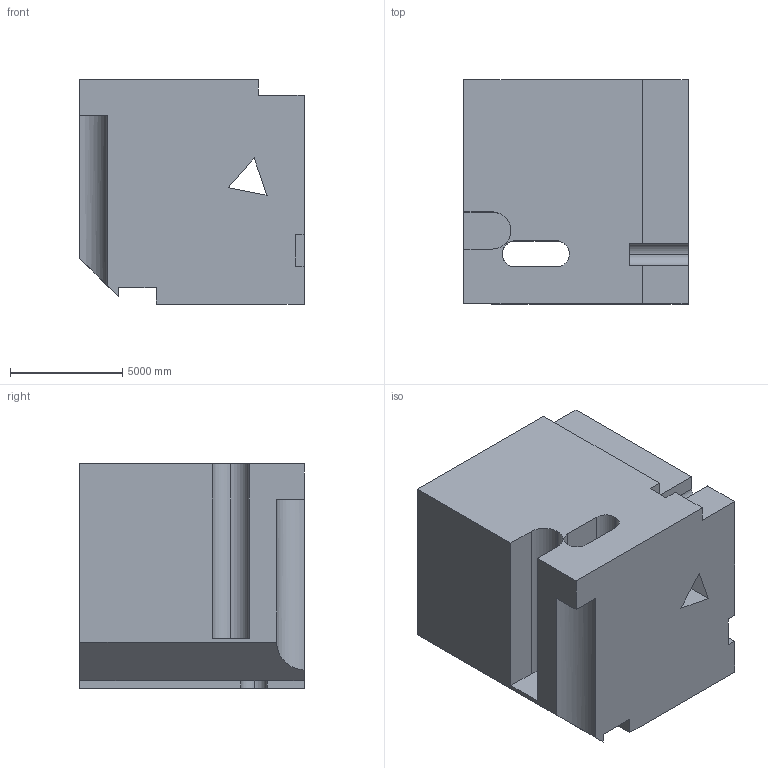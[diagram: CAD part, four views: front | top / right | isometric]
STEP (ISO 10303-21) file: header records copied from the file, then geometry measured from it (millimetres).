
FILE_DESCRIPTION (( 'STEP AP203' ), '1' );
FILE_NAME ('187.STEP', '2022-09-06T14:49:41', ( 'user' ), ( '' ), 'SwSTEP 2.0', 'SolidWorks 2021', '' );
FILE_SCHEMA (( 'CONFIG_CONTROL_DESIGN' ));
Length unit declared in the file: centimetre
Products named in the file (1): 187
Bounding box: 10000 x 10000 x 10000 mm (x, y, z)
Volume: 872565662557.5 mm3; surface area: 732616898.7 mm2
Topology: 1 solids, 1 shells, 41 faces, 120 edges, 80 vertices
Faces by surface type: plane 33, cylinder 8
Entity records: 1435 total; most frequent: CARTESIAN_POINT 248, ORIENTED_EDGE 240, DIRECTION 218, EDGE_CURVE 120, VECTOR 102, LINE 102, VERTEX_POINT 80, AXIS2_PLACEMENT_3D 58
